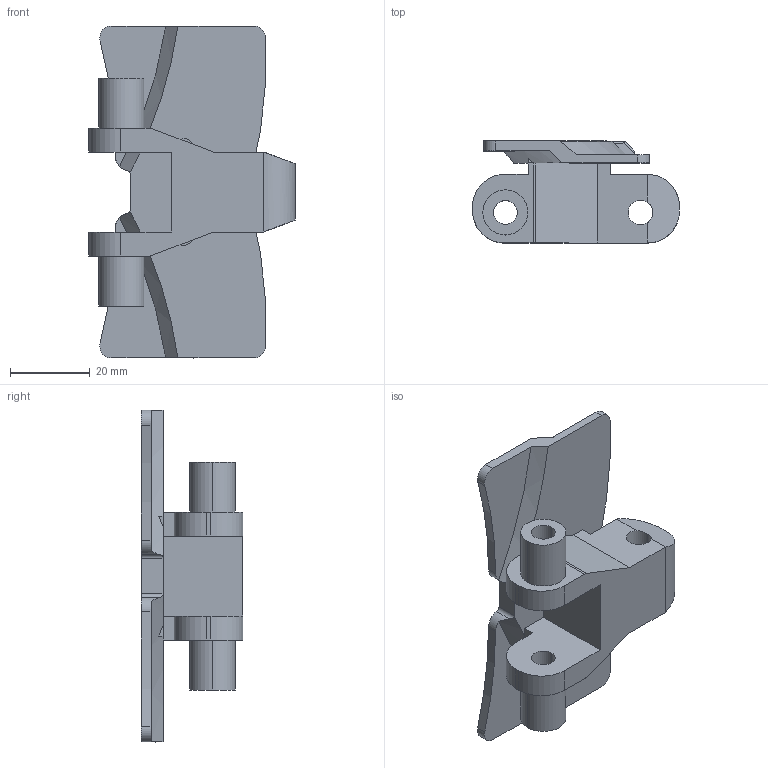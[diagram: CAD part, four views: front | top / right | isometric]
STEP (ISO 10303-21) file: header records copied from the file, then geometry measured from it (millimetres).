
FILE_DESCRIPTION (( 'STEP AP214' ), '1' );
FILE_NAME ('EMPC-5.STEP', '2011-05-30T06:47:18', ( '.' ), ( '' ), 'SwSTEP 2.0', 'SolidWorks 2010', '' );
FILE_SCHEMA (( 'AUTOMOTIVE_DESIGN' ));
Length unit declared in the file: millimetre
Products named in the file (1): EMPC-5
Bounding box: 51.7 x 25.5 x 83 mm (x, y, z)
Volume: 27864 mm3; surface area: 13843 mm2
Topology: 2 solids, 2 shells, 88 faces, 238 edges, 156 vertices
Faces by surface type: plane 43, cylinder 35, bspline 6, cone 4
Entity records: 3645 total; most frequent: CARTESIAN_POINT 988, ORIENTED_EDGE 476, DIRECTION 423, EDGE_CURVE 238, VERTEX_POINT 156, AXIS2_PLACEMENT_3D 151, VECTOR 121, LINE 121
